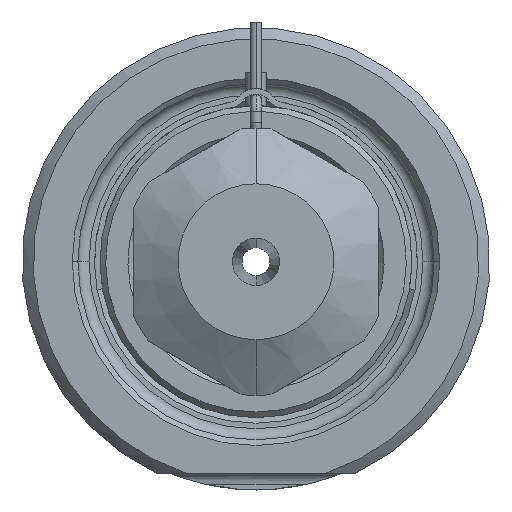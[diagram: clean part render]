
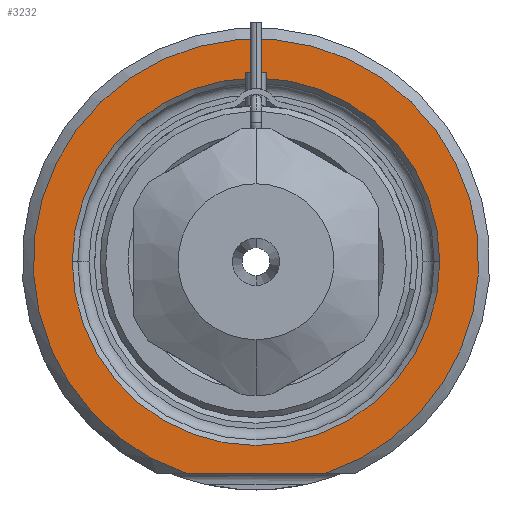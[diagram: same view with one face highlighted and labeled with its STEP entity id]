
A CAD part, front view. The second image highlights one B-rep face of the part: STEP entity #3232.
In plain terms, the highlighted planar face has unit normal (0, -1, 0).
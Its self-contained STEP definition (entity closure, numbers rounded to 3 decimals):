
#1=DIRECTION('',(1.,0.,0.));
#2=VECTOR('',#1,12.49);
#3=CARTESIAN_POINT('',(-6.245,0.,-19.));
#4=LINE('',#3,#2);
#5=CARTESIAN_POINT('',(0.,0.,0.));
#6=DIRECTION('',(0.,1.,0.));
#7=DIRECTION('',(-1.,0.,0.));
#8=AXIS2_PLACEMENT_3D('',#5,#6,#7);
#10=CARTESIAN_POINT('',(0.,0.,0.));
#11=DIRECTION('',(0.,1.,0.));
#12=DIRECTION('',(1.,0.,0.));
#13=AXIS2_PLACEMENT_3D('',#10,#11,#12);
#119=CARTESIAN_POINT('',(0.,0.,0.));
#120=DIRECTION('',(0.,-1.,0.));
#121=DIRECTION('',(0.312,0.,-0.95));
#122=AXIS2_PLACEMENT_3D('',#119,#120,#121);
#2685=CARTESIAN_POINT('',(-16.5,0.,0.));
#2686=CARTESIAN_POINT('',(16.5,0.,0.));
#2687=VERTEX_POINT('',#2685);
#2688=VERTEX_POINT('',#2686);
#2725=CARTESIAN_POINT('',(-6.245,0.,-19.));
#2726=CARTESIAN_POINT('',(6.245,0.,-19.));
#2727=VERTEX_POINT('',#2725);
#2728=VERTEX_POINT('',#2726);
#3215=CARTESIAN_POINT('',(0.,0.,0.));
#3216=DIRECTION('',(0.,-1.,0.));
#3217=DIRECTION('',(1.,0.,0.));
#3218=AXIS2_PLACEMENT_3D('',#3215,#3216,#3217);
#3219=PLANE('',#3218);
#3221=ORIENTED_EDGE('',*,*,#3220,.F.);
#3223=ORIENTED_EDGE('',*,*,#3222,.F.);
#3224=EDGE_LOOP('',(#3221,#3223));
#3225=FACE_OUTER_BOUND('',#3224,.F.);
#3227=ORIENTED_EDGE('',*,*,#3226,.F.);
#3229=ORIENTED_EDGE('',*,*,#3228,.F.);
#3230=EDGE_LOOP('',(#3227,#3229));
#3231=FACE_BOUND('',#3230,.F.);
#3232=ADVANCED_FACE('',(#3225,#3231),#3219,.T.);
#9=CIRCLE('',#8,16.5);
#14=CIRCLE('',#13,16.5);
#123=CIRCLE('',#122,20.);
#3220=EDGE_CURVE('',#2727,#2728,#4,.T.);
#3222=EDGE_CURVE('',#2728,#2727,#123,.T.);
#3226=EDGE_CURVE('',#2687,#2688,#9,.T.);
#3228=EDGE_CURVE('',#2688,#2687,#14,.T.);
